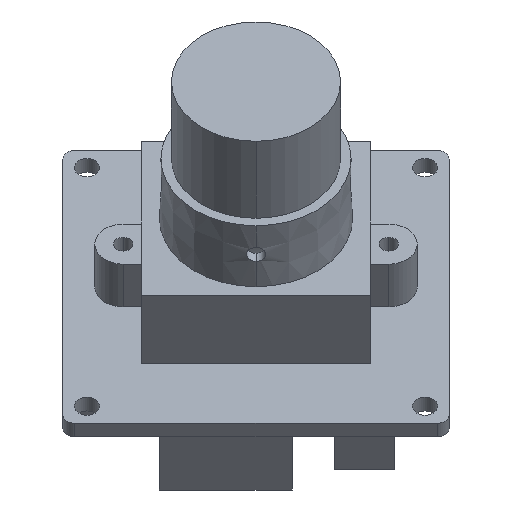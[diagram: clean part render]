
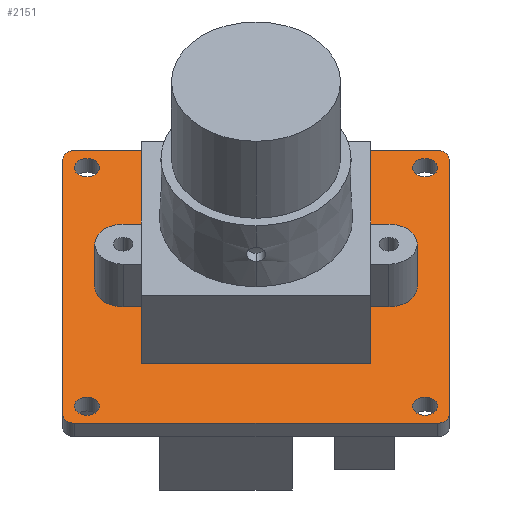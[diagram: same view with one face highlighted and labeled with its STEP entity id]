
A CAD part, top view. The second image highlights one B-rep face of the part: STEP entity #2151.
In plain terms, the highlighted planar face has unit normal (0, 0.707, 0.707) as drawn and (0, 1, 0) by its records, which use the part's own axes.
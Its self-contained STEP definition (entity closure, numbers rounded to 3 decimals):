
#1374=DIRECTION('',(-1.,0.,0.));
#1375=VECTOR('',#1374,30.);
#1376=CARTESIAN_POINT('',(15.,1.6,-16.));
#1377=LINE('',#1376,#1375);
#1386=DIRECTION('',(0.,0.,-1.));
#1387=VECTOR('',#1386,30.);
#1388=CARTESIAN_POINT('',(16.,1.6,15.));
#1389=LINE('',#1388,#1387);
#1398=DIRECTION('',(1.,0.,0.));
#1399=VECTOR('',#1398,30.);
#1400=CARTESIAN_POINT('',(-15.,1.6,16.));
#1401=LINE('',#1400,#1399);
#1410=DIRECTION('',(0.,0.,1.));
#1411=VECTOR('',#1410,30.);
#1412=CARTESIAN_POINT('',(-16.,1.6,-15.));
#1413=LINE('',#1412,#1411);
#1414=CARTESIAN_POINT('',(-15.,1.6,-15.));
#1415=DIRECTION('',(0.,-1.,0.));
#1416=DIRECTION('',(-1.,0.,0.));
#1417=AXIS2_PLACEMENT_3D('',#1414,#1415,#1416);
#1419=CARTESIAN_POINT('',(15.,1.6,-15.));
#1420=DIRECTION('',(0.,-1.,0.));
#1421=DIRECTION('',(0.,0.,-1.));
#1422=AXIS2_PLACEMENT_3D('',#1419,#1420,#1421);
#1424=CARTESIAN_POINT('',(15.,1.6,15.));
#1425=DIRECTION('',(0.,-1.,0.));
#1426=DIRECTION('',(1.,0.,0.));
#1427=AXIS2_PLACEMENT_3D('',#1424,#1425,#1426);
#1429=CARTESIAN_POINT('',(-15.,1.6,15.));
#1430=DIRECTION('',(0.,-1.,0.));
#1431=DIRECTION('',(0.,0.,1.));
#1432=AXIS2_PLACEMENT_3D('',#1429,#1430,#1431);
#1434=CARTESIAN_POINT('',(14.,1.6,-14.));
#1435=DIRECTION('',(0.,1.,0.));
#1436=DIRECTION('',(-1.,0.,0.));
#1437=AXIS2_PLACEMENT_3D('',#1434,#1435,#1436);
#1439=CARTESIAN_POINT('',(14.,1.6,-14.));
#1440=DIRECTION('',(0.,1.,0.));
#1441=DIRECTION('',(1.,0.,0.));
#1442=AXIS2_PLACEMENT_3D('',#1439,#1440,#1441);
#1444=CARTESIAN_POINT('',(-14.,1.6,14.));
#1445=DIRECTION('',(0.,1.,0.));
#1446=DIRECTION('',(-1.,0.,0.));
#1447=AXIS2_PLACEMENT_3D('',#1444,#1445,#1446);
#1449=CARTESIAN_POINT('',(-14.,1.6,14.));
#1450=DIRECTION('',(0.,1.,0.));
#1451=DIRECTION('',(1.,0.,0.));
#1452=AXIS2_PLACEMENT_3D('',#1449,#1450,#1451);
#1454=CARTESIAN_POINT('',(14.,1.6,14.));
#1455=DIRECTION('',(0.,1.,0.));
#1456=DIRECTION('',(-1.,0.,0.));
#1457=AXIS2_PLACEMENT_3D('',#1454,#1455,#1456);
#1459=CARTESIAN_POINT('',(14.,1.6,14.));
#1460=DIRECTION('',(0.,1.,0.));
#1461=DIRECTION('',(1.,0.,0.));
#1462=AXIS2_PLACEMENT_3D('',#1459,#1460,#1461);
#1464=CARTESIAN_POINT('',(-11.,1.6,0.));
#1465=DIRECTION('',(0.,1.,0.));
#1466=DIRECTION('',(-1.,0.,0.));
#1467=AXIS2_PLACEMENT_3D('',#1464,#1465,#1466);
#1469=CARTESIAN_POINT('',(-11.,1.6,0.));
#1470=DIRECTION('',(0.,1.,0.));
#1471=DIRECTION('',(1.,0.,0.));
#1472=AXIS2_PLACEMENT_3D('',#1469,#1470,#1471);
#1474=CARTESIAN_POINT('',(11.,1.6,0.));
#1475=DIRECTION('',(0.,1.,0.));
#1476=DIRECTION('',(-1.,0.,0.));
#1477=AXIS2_PLACEMENT_3D('',#1474,#1475,#1476);
#1479=CARTESIAN_POINT('',(11.,1.6,0.));
#1480=DIRECTION('',(0.,1.,0.));
#1481=DIRECTION('',(1.,0.,0.));
#1482=AXIS2_PLACEMENT_3D('',#1479,#1480,#1481);
#1484=CARTESIAN_POINT('',(-14.,1.6,-14.));
#1485=DIRECTION('',(0.,1.,0.));
#1486=DIRECTION('',(-1.,0.,0.));
#1487=AXIS2_PLACEMENT_3D('',#1484,#1485,#1486);
#1489=CARTESIAN_POINT('',(-14.,1.6,-14.));
#1490=DIRECTION('',(0.,1.,0.));
#1491=DIRECTION('',(1.,0.,0.));
#1492=AXIS2_PLACEMENT_3D('',#1489,#1490,#1491);
#1494=DIRECTION('',(0.,0.,1.));
#1495=VECTOR('',#1494,11.6);
#1496=CARTESIAN_POINT('',(-6.4,1.6,-5.8));
#1497=LINE('',#1496,#1495);
#1498=DIRECTION('',(1.,0.,0.));
#1499=VECTOR('',#1498,12.8);
#1500=CARTESIAN_POINT('',(-6.4,1.6,5.8));
#1501=LINE('',#1500,#1499);
#1502=DIRECTION('',(0.,0.,-1.));
#1503=VECTOR('',#1502,11.6);
#1504=CARTESIAN_POINT('',(6.4,1.6,5.8));
#1505=LINE('',#1504,#1503);
#1506=DIRECTION('',(-1.,0.,0.));
#1507=VECTOR('',#1506,12.8);
#1508=CARTESIAN_POINT('',(6.4,1.6,-5.8));
#1509=LINE('',#1508,#1507);
#1790=CARTESIAN_POINT('',(-15.,1.6,-16.));
#1791=VERTEX_POINT('',#1790);
#1792=CARTESIAN_POINT('',(-16.,1.6,-15.));
#1793=VERTEX_POINT('',#1792);
#1794=CARTESIAN_POINT('',(15.,1.6,-16.));
#1795=VERTEX_POINT('',#1794);
#1796=CARTESIAN_POINT('',(16.,1.6,-15.));
#1797=VERTEX_POINT('',#1796);
#1798=CARTESIAN_POINT('',(16.,1.6,15.));
#1799=VERTEX_POINT('',#1798);
#1800=CARTESIAN_POINT('',(15.,1.6,16.));
#1801=VERTEX_POINT('',#1800);
#1802=CARTESIAN_POINT('',(-15.,1.6,16.));
#1803=VERTEX_POINT('',#1802);
#1804=CARTESIAN_POINT('',(-16.,1.6,15.));
#1805=VERTEX_POINT('',#1804);
#1806=CARTESIAN_POINT('',(12.95,1.6,-14.));
#1807=CARTESIAN_POINT('',(15.05,1.6,-14.));
#1808=VERTEX_POINT('',#1806);
#1809=VERTEX_POINT('',#1807);
#1810=CARTESIAN_POINT('',(-15.05,1.6,14.));
#1811=CARTESIAN_POINT('',(-12.95,1.6,14.));
#1812=VERTEX_POINT('',#1810);
#1813=VERTEX_POINT('',#1811);
#1814=CARTESIAN_POINT('',(12.95,1.6,14.));
#1815=CARTESIAN_POINT('',(15.05,1.6,14.));
#1816=VERTEX_POINT('',#1814);
#1817=VERTEX_POINT('',#1815);
#1818=CARTESIAN_POINT('',(-12.05,1.6,0.));
#1819=CARTESIAN_POINT('',(-9.95,1.6,0.));
#1820=VERTEX_POINT('',#1818);
#1821=VERTEX_POINT('',#1819);
#1822=CARTESIAN_POINT('',(9.95,1.6,0.));
#1823=CARTESIAN_POINT('',(12.05,1.6,0.));
#1824=VERTEX_POINT('',#1822);
#1825=VERTEX_POINT('',#1823);
#1826=CARTESIAN_POINT('',(-15.05,1.6,-14.));
#1827=CARTESIAN_POINT('',(-12.95,1.6,-14.));
#1828=VERTEX_POINT('',#1826);
#1829=VERTEX_POINT('',#1827);
#1830=CARTESIAN_POINT('',(-6.4,1.6,-5.8));
#1831=CARTESIAN_POINT('',(-6.4,1.6,5.8));
#1832=VERTEX_POINT('',#1830);
#1833=VERTEX_POINT('',#1831);
#1834=CARTESIAN_POINT('',(6.4,1.6,5.8));
#1835=VERTEX_POINT('',#1834);
#1836=CARTESIAN_POINT('',(6.4,1.6,-5.8));
#1837=VERTEX_POINT('',#1836);
#2090=CARTESIAN_POINT('',(0.,1.6,0.));
#2091=DIRECTION('',(0.,1.,0.));
#2092=DIRECTION('',(1.,0.,0.));
#2093=AXIS2_PLACEMENT_3D('',#2090,#2091,#2092);
#2094=PLANE('',#2093);
#2095=ORIENTED_EDGE('',*,*,#1986,.T.);
#2096=ORIENTED_EDGE('',*,*,#2001,.F.);
#2097=ORIENTED_EDGE('',*,*,#2015,.T.);
#2098=ORIENTED_EDGE('',*,*,#2029,.F.);
#2099=ORIENTED_EDGE('',*,*,#2043,.T.);
#2100=ORIENTED_EDGE('',*,*,#2057,.F.);
#2101=ORIENTED_EDGE('',*,*,#2071,.T.);
#2102=ORIENTED_EDGE('',*,*,#2084,.F.);
#2103=EDGE_LOOP('',(#2095,#2096,#2097,#2098,#2099,#2100,#2101,#2102));
#2104=FACE_OUTER_BOUND('',#2103,.F.);
#2106=ORIENTED_EDGE('',*,*,#2105,.T.);
#2108=ORIENTED_EDGE('',*,*,#2107,.T.);
#2109=EDGE_LOOP('',(#2106,#2108));
#2110=FACE_BOUND('',#2109,.F.);
#2112=ORIENTED_EDGE('',*,*,#2111,.T.);
#2114=ORIENTED_EDGE('',*,*,#2113,.T.);
#2115=EDGE_LOOP('',(#2112,#2114));
#2116=FACE_BOUND('',#2115,.F.);
#2118=ORIENTED_EDGE('',*,*,#2117,.T.);
#2120=ORIENTED_EDGE('',*,*,#2119,.T.);
#2121=EDGE_LOOP('',(#2118,#2120));
#2122=FACE_BOUND('',#2121,.F.);
#2124=ORIENTED_EDGE('',*,*,#2123,.T.);
#2126=ORIENTED_EDGE('',*,*,#2125,.T.);
#2127=EDGE_LOOP('',(#2124,#2126));
#2128=FACE_BOUND('',#2127,.F.);
#2130=ORIENTED_EDGE('',*,*,#2129,.T.);
#2132=ORIENTED_EDGE('',*,*,#2131,.T.);
#2133=EDGE_LOOP('',(#2130,#2132));
#2134=FACE_BOUND('',#2133,.F.);
#2136=ORIENTED_EDGE('',*,*,#2135,.T.);
#2138=ORIENTED_EDGE('',*,*,#2137,.T.);
#2139=EDGE_LOOP('',(#2136,#2138));
#2140=FACE_BOUND('',#2139,.F.);
#2142=ORIENTED_EDGE('',*,*,#2141,.T.);
#2144=ORIENTED_EDGE('',*,*,#2143,.T.);
#2146=ORIENTED_EDGE('',*,*,#2145,.T.);
#2148=ORIENTED_EDGE('',*,*,#2147,.T.);
#2149=EDGE_LOOP('',(#2142,#2144,#2146,#2148));
#2150=FACE_BOUND('',#2149,.F.);
#1418=CIRCLE('',#1417,1.);
#1423=CIRCLE('',#1422,1.);
#1428=CIRCLE('',#1427,1.);
#1433=CIRCLE('',#1432,1.);
#1438=CIRCLE('',#1437,1.05);
#1443=CIRCLE('',#1442,1.05);
#1448=CIRCLE('',#1447,1.05);
#1453=CIRCLE('',#1452,1.05);
#1458=CIRCLE('',#1457,1.05);
#1463=CIRCLE('',#1462,1.05);
#1468=CIRCLE('',#1467,1.05);
#1473=CIRCLE('',#1472,1.05);
#1478=CIRCLE('',#1477,1.05);
#1483=CIRCLE('',#1482,1.05);
#1488=CIRCLE('',#1487,1.05);
#1493=CIRCLE('',#1492,1.05);
#1986=EDGE_CURVE('',#1793,#1791,#1418,.T.);
#2001=EDGE_CURVE('',#1795,#1791,#1377,.T.);
#2015=EDGE_CURVE('',#1795,#1797,#1423,.T.);
#2029=EDGE_CURVE('',#1799,#1797,#1389,.T.);
#2043=EDGE_CURVE('',#1799,#1801,#1428,.T.);
#2057=EDGE_CURVE('',#1803,#1801,#1401,.T.);
#2071=EDGE_CURVE('',#1803,#1805,#1433,.T.);
#2084=EDGE_CURVE('',#1793,#1805,#1413,.T.);
#2105=EDGE_CURVE('',#1808,#1809,#1438,.T.);
#2107=EDGE_CURVE('',#1809,#1808,#1443,.T.);
#2111=EDGE_CURVE('',#1812,#1813,#1448,.T.);
#2113=EDGE_CURVE('',#1813,#1812,#1453,.T.);
#2117=EDGE_CURVE('',#1816,#1817,#1458,.T.);
#2119=EDGE_CURVE('',#1817,#1816,#1463,.T.);
#2123=EDGE_CURVE('',#1820,#1821,#1468,.T.);
#2125=EDGE_CURVE('',#1821,#1820,#1473,.T.);
#2129=EDGE_CURVE('',#1824,#1825,#1478,.T.);
#2131=EDGE_CURVE('',#1825,#1824,#1483,.T.);
#2135=EDGE_CURVE('',#1828,#1829,#1488,.T.);
#2137=EDGE_CURVE('',#1829,#1828,#1493,.T.);
#2141=EDGE_CURVE('',#1832,#1833,#1497,.T.);
#2143=EDGE_CURVE('',#1833,#1835,#1501,.T.);
#2145=EDGE_CURVE('',#1835,#1837,#1505,.T.);
#2147=EDGE_CURVE('',#1837,#1832,#1509,.T.);
#2151=ADVANCED_FACE('',(#2104,#2110,#2116,#2122,#2128,#2134,#2140,#2150),#2094,
.T.);
